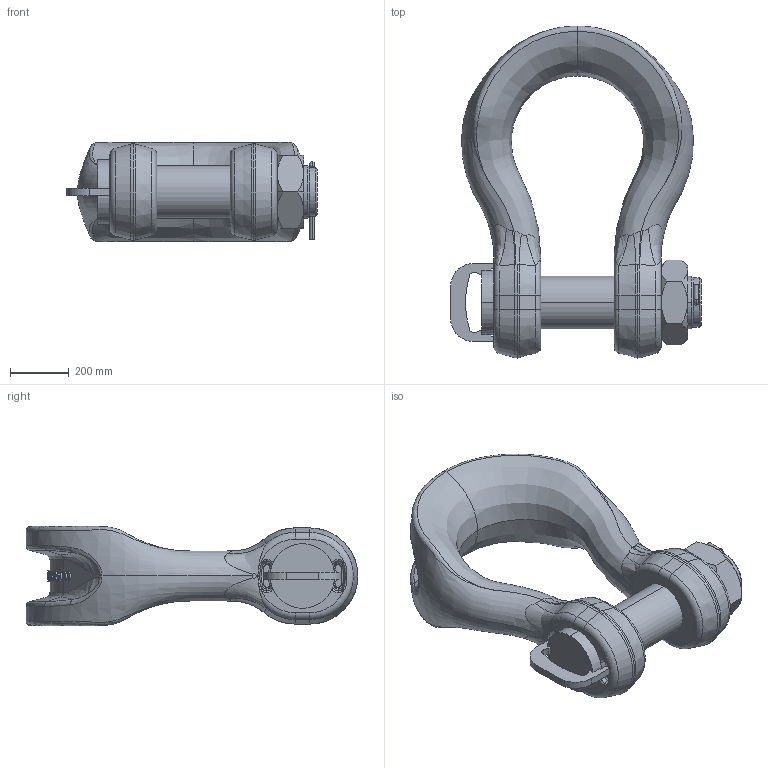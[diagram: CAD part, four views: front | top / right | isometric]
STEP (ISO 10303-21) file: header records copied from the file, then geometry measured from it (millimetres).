
FILE_DESCRIPTION(('STEP AP214'),'1');
FILE_NAME('slgpf0500.stp','2017-07-03T06:31:17',('TraceParts'),('TraceParts S.A.'),'Spatial InterOp 3D',' ',' ');
FILE_SCHEMA(('automotive_design'));
Length unit declared in the file: millimetre
Products named in the file (5): slgpf0500_1; slgpf0500_2; slgpf0500_3; slgpf0500_4; slgpf0500_5
Bounding box: 854 x 1130.5 x 338.37 mm (x, y, z)
Volume: 96422099.2 mm3; surface area: 2803865.7 mm2
Topology: 5 solids, 5 shells, 583 faces, 1498 edges, 947 vertices
Faces by surface type: bspline 203, plane 172, cylinder 76, torus 70, cone 62
Entity records: 127924 total; most frequent: CARTESIAN_POINT 110335, ORIENTED_EDGE 2988, DIRECTION 2166, EDGE_CURVE 1494, VERTEX_POINT 947, AXIS2_PLACEMENT_3D 820, EDGE_LOOP 617, PRESENTATION_STYLE_ASSIGNMENT 593
